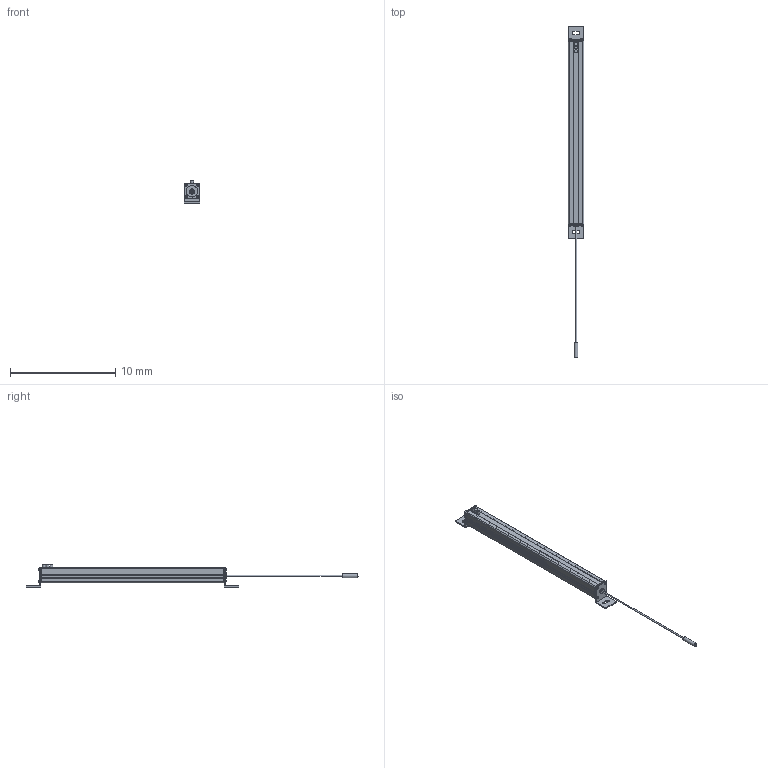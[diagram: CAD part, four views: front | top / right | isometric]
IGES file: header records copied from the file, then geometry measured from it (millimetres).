
Start section:  Autodesk DirectConnect version 7.0.27.0 ---- IGES version 5.3
Global section: file name: C:\ACADFILES\SS_PYLONS\CUSTOMER_FILES\SS-16-PYLON_3D_L.iges; native system: Autodesk DirectConnect 7.0.27.0; preprocessor: 7.0.27.0; author: ENGINEERMAIN; organization: Unknown; date: 20150810.124241; units: millimetre
Bounding box: 1.46 x 31.52 x 2.11 mm (x, y, z)
Surface area: 283.9 mm2 (no closed solid volume)
Topology: 0 solids, 0 shells, 475 faces, 2605 edges, 2624 vertices
Faces by surface type: bspline 475
